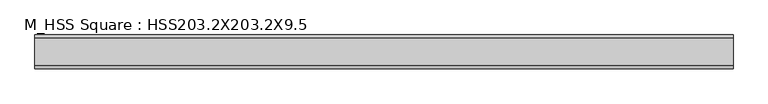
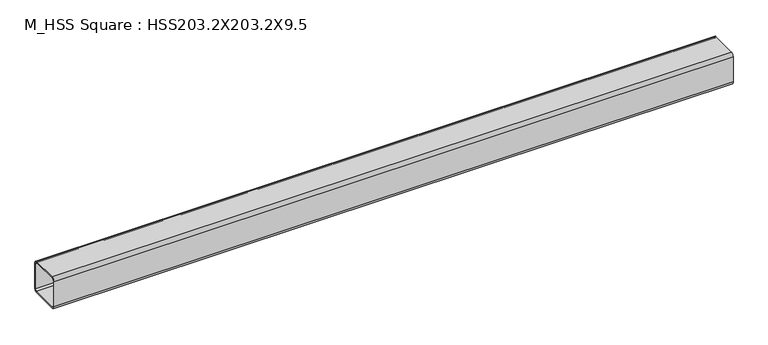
"""IFC4 building model written with IfcOpenShell, lengths in millimetres: member geometry, M_HSS Square : HSS203.2X203.2X9.5."""

from ifc_helpers import new_model, si_unit, point, frame, frame_2d, origin, place, context, project, spatial, polyline, circle_curve, trimmed, segment, composite_curve, outline, extrude, source, transform, mapped, element, save


def m_hss_square_hss203_2x203_2x9_5_a36f1cbc(model_context):
    return source(origin(), model_context, "Body", "SweptSolid", [
        extrude(outline(composite_curve([segment(trimmed(circle_curve(frame_2d((-82.44, 82.44)), 19.06), [point((-101.5, 82.44))], [point((-82.44, 101.5))], False, "CARTESIAN"), True, "CONTINUOUS"), segment(polyline([(-82.44, 101.5), (82.44, 101.5)]), True, "CONTINUOUS"), segment(trimmed(circle_curve(frame_2d((82.44, 82.44)), 19.06), [point((82.44, 101.5))], [point((101.5, 82.44))], False, "CARTESIAN"), True, "CONTINUOUS"), segment(polyline([(101.5, 82.44), (101.5, -82.44)]), True, "CONTINUOUS"), segment(trimmed(circle_curve(frame_2d((82.44, -82.44)), 19.06), [point((101.5, -82.44))], [point((82.44, -101.5))], False, "CARTESIAN"), True, "CONTINUOUS"), segment(polyline([(82.44, -101.5), (-82.44, -101.5)]), True, "CONTINUOUS"), segment(trimmed(circle_curve(frame_2d((-82.44, -82.44)), 19.06), [point((-82.44, -101.5))], [point((-101.5, -82.44))], False, "CARTESIAN"), True, "CONTINUOUS"), segment(polyline([(-101.5, -82.44), (-101.5, 82.44)]), True, "CONTINUOUS")], self_intersect=False), holes=[composite_curve([segment(polyline([(82.44, 91.97), (-82.44, 91.97)]), True, "CONTINUOUS"), segment(trimmed(circle_curve(frame_2d((-82.44, 82.44)), 9.53), [point((-82.44, 91.97))], [point((-91.97, 82.44))], True, "CARTESIAN"), True, "CONTINUOUS"), segment(polyline([(-91.97, 82.44), (-91.97, -82.44)]), True, "CONTINUOUS"), segment(trimmed(circle_curve(frame_2d((-82.44, -82.44)), 9.53), [point((-91.97, -82.44))], [point((-82.44, -91.97))], True, "CARTESIAN"), True, "CONTINUOUS"), segment(polyline([(-82.44, -91.97), (82.44, -91.97)]), True, "CONTINUOUS"), segment(trimmed(circle_curve(frame_2d((82.44, -82.44)), 9.53), [point((82.44, -91.97))], [point((91.97, -82.44))], True, "CARTESIAN"), True, "CONTINUOUS"), segment(polyline([(91.97, -82.44), (91.97, 82.44)]), True, "CONTINUOUS"), segment(trimmed(circle_curve(frame_2d((82.44, 82.44)), 9.53), [point((91.97, 82.44))], [point((82.44, 91.97))], True, "CARTESIAN"), True, "CONTINUOUS")], self_intersect=False)]), frame((-2095.8, 0.0, 0.0), z_axis=(1.0, 0.0, 0.0), x_axis=(0.0, 1.0, 0.0)), (0.0, 0.0, 1.0), 4191.6),
    ])


if __name__ == "__main__":
    model = new_model("IFC4")
    model_context = context("Model", 3, world=origin())
    ifc_project = project(units=[si_unit("LENGTHUNIT", "METRE", prefix="MILLI")], contexts=[model_context])
    site = spatial("IfcSite", under=ifc_project)
    building = spatial("IfcBuilding", under=site)
    placement = place(None, origin())
    m_hss_square_hss203_2x203_2x9_5_shape = m_hss_square_hss203_2x203_2x9_5_a36f1cbc(model_context)
    element("IfcMember", 1, ObjectType="M_HSS Square : HSS203.2X203.2X9.5", at=placement, inside=building, context=model_context, shape_type="MappedRepresentation", body=[
        mapped(m_hss_square_hss203_2x203_2x9_5_shape, transform((0.0, 0.0, 0.0), x_axis=(1.0, 0.0, 0.0), y_axis=(0.0, 1.0, 0.0), z_axis=(0.0, 0.0, 1.0))),
    ])
    save(model, "model.ifc")
